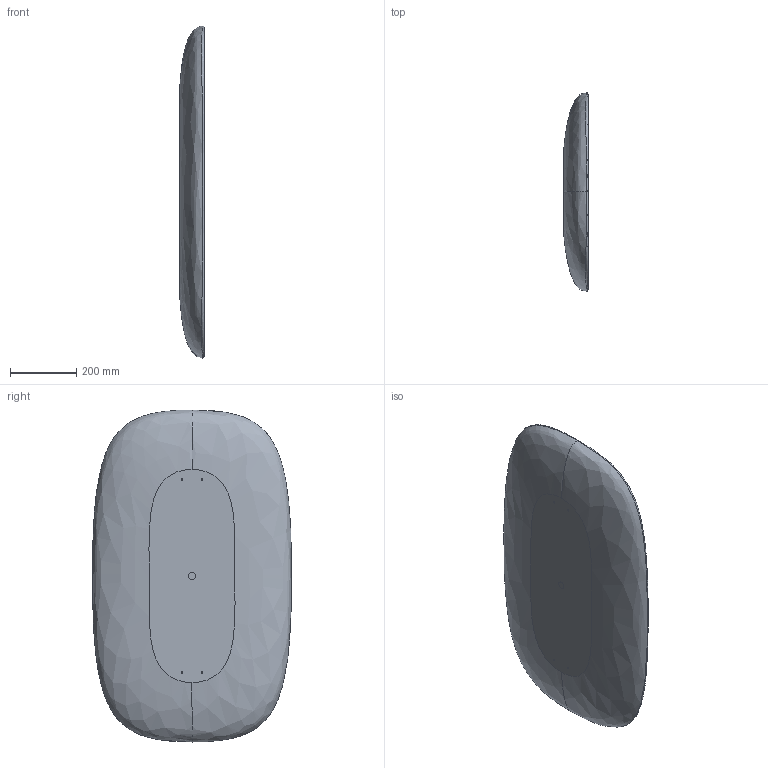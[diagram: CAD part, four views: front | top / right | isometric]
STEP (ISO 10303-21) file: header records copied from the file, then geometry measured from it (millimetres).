
FILE_DESCRIPTION((''),'2;1');
FILE_NAME('PARETE_SW0001','2025-05-13T16:24:23',('elena.baldelli'),(''),'CREO PARAMETRIC BY PTC INC, 2020354','CREO PARAMETRIC BY PTC INC, 2020354','');
FILE_SCHEMA(('CONFIG_CONTROL_DESIGN'));
Products named in the file (1): PARETE_SW0001
Bounding box: 72.97 x 599.34 x 999.76 mm (x, y, z)
Surface area: 1606760.7 mm2 (no closed solid volume)
Topology: 0 solids, 3 shells, 34 faces, 187 edges, 155 vertices
Faces by surface type: bspline 26, plane 4, extrusion 4
Entity records: 76052 total; most frequent: CARTESIAN_POINT 75006, ORIENTED_EDGE 247, EDGE_CURVE 187, B_SPLINE_CURVE_WITH_KNOTS 171, VERTEX_POINT 155, DIRECTION 43, EDGE_LOOP 40, FACE_OUTER_BOUND 34
